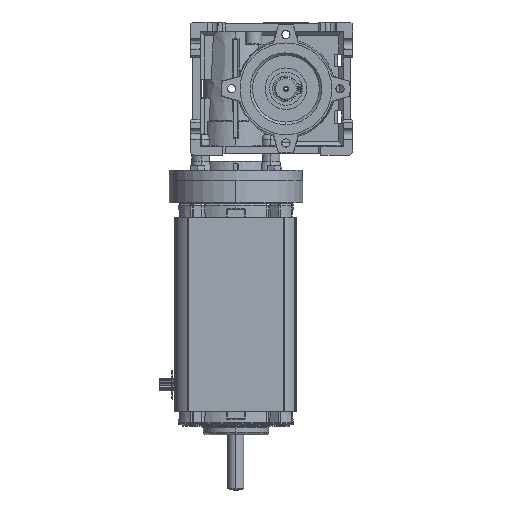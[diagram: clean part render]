
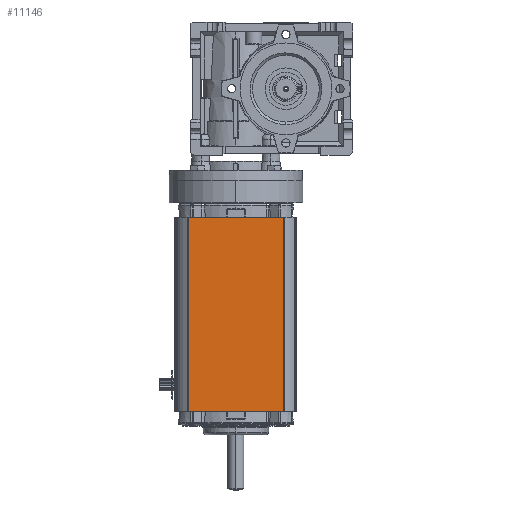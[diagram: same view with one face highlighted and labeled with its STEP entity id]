
A CAD part, left-side view. The second image highlights one B-rep face of the part: STEP entity #11146.
In plain terms, the highlighted planar face has unit normal (-1, 0, 0).
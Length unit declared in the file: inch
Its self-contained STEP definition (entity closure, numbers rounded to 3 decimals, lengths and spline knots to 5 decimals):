
#410 = AXIS2_PLACEMENT_3D ( 'NONE', #66016, #21102, #73579 ) ;
#782 = ORIENTED_EDGE ( 'NONE', *, *, #52383, .T. ) ;
#7777 = DIRECTION ( 'NONE',  ( 0., 0., -1. ) ) ;
#8427 = LINE ( 'NONE', #18177, #63433 ) ;
#11146 = ADVANCED_FACE ( 'NONE', ( #29103 ), #13270, .T. ) ;
#12722 = VECTOR ( 'NONE', #7777, 39.37008 ) ;
#13203 = VERTEX_POINT ( 'NONE', #38503 ) ;
#13270 = PLANE ( 'NONE',  #410 ) ;
#18177 = CARTESIAN_POINT ( 'NONE',  ( -1.442, -1.1275, -5.455 ) ) ;
#21102 = DIRECTION ( 'NONE',  ( -1., 0., 0. ) ) ;
#24870 = CARTESIAN_POINT ( 'NONE',  ( -1.442, 1.1275, -5.455 ) ) ;
#25518 = CARTESIAN_POINT ( 'NONE',  ( -1.442, -1.1275, -0.872 ) ) ;
#25710 = DIRECTION ( 'NONE',  ( 0., 1., 0. ) ) ;
#26166 = VERTEX_POINT ( 'NONE', #24870 ) ;
#29103 = FACE_OUTER_BOUND ( 'NONE', #45713, .T. ) ;
#33129 = CARTESIAN_POINT ( 'NONE',  ( -1.442, -1.1275, -5.455 ) ) ;
#38503 = CARTESIAN_POINT ( 'NONE',  ( -1.442, 1.1275, -0.872 ) ) ;
#39058 = EDGE_CURVE ( 'NONE', #13203, #84903, #95587, .T. ) ;
#44850 = CARTESIAN_POINT ( 'NONE',  ( -1.442, 1.1275, -5.59 ) ) ;
#44927 = LINE ( 'NONE', #69572, #64831 ) ;
#45713 = EDGE_LOOP ( 'NONE', ( #54239, #78609, #782, #81440 ) ) ;
#50713 = EDGE_CURVE ( 'NONE', #13203, #26166, #72510, .T. ) ;
#52383 = EDGE_CURVE ( 'NONE', #77919, #84903, #44927, .T. ) ;
#54239 = ORIENTED_EDGE ( 'NONE', *, *, #50713, .T. ) ;
#62416 = EDGE_CURVE ( 'NONE', #77919, #26166, #8427, .T. ) ;
#63433 = VECTOR ( 'NONE', #25710, 39.37008 ) ;
#64831 = VECTOR ( 'NONE', #85094, 39.37008 ) ;
#65748 = CARTESIAN_POINT ( 'NONE',  ( -1.442, 1.1475, -0.872 ) ) ;
#66016 = CARTESIAN_POINT ( 'NONE',  ( -1.442, 1.1475, -5.59 ) ) ;
#69572 = CARTESIAN_POINT ( 'NONE',  ( -1.442, -1.1275, -5.59 ) ) ;
#72510 = LINE ( 'NONE', #44850, #12722 ) ;
#73579 = DIRECTION ( 'NONE',  ( 0., 0., 1. ) ) ;
#75669 = VECTOR ( 'NONE', #95903, 39.37008 ) ;
#77919 = VERTEX_POINT ( 'NONE', #33129 ) ;
#78609 = ORIENTED_EDGE ( 'NONE', *, *, #62416, .F. ) ;
#81440 = ORIENTED_EDGE ( 'NONE', *, *, #39058, .F. ) ;
#84903 = VERTEX_POINT ( 'NONE', #25518 ) ;
#85094 = DIRECTION ( 'NONE',  ( 0., 0., 1. ) ) ;
#95587 = LINE ( 'NONE', #65748, #75669 ) ;
#95903 = DIRECTION ( 'NONE',  ( 0., -1., 0. ) ) ;
